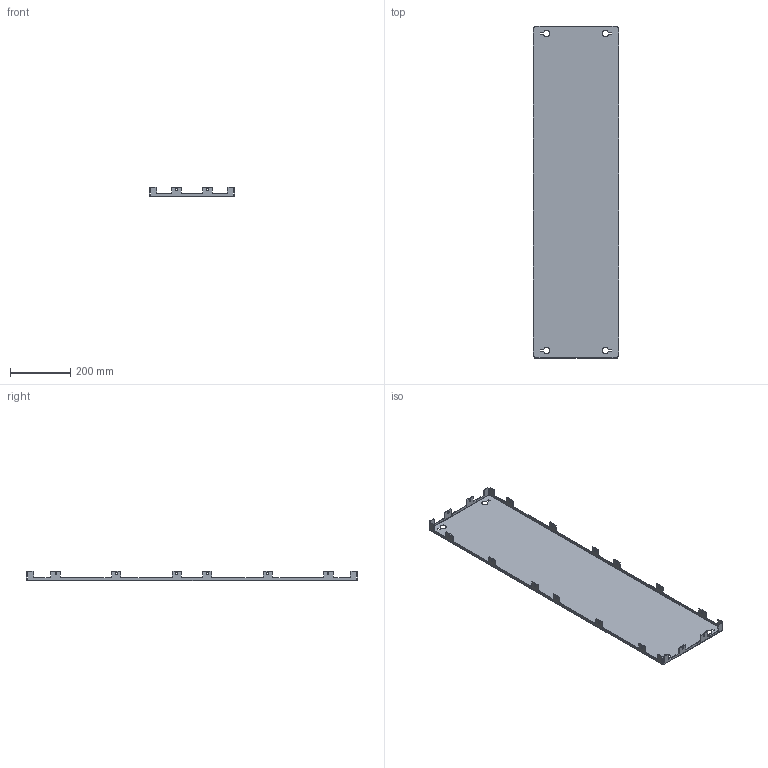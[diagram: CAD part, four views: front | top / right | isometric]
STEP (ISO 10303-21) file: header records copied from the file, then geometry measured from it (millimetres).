
FILE_DESCRIPTION (( 'STEP AP203' ), '1' );
FILE_NAME ('R5LPS1204.STEP', '2021-12-17T12:18:47', ( '' ), ( '' ), 'SwSTEP 2.0', 'SolidWorks 2020', '' );
FILE_SCHEMA (( 'CONFIG_CONTROL_DESIGN' ));
Length unit declared in the file: millimetre
Products named in the file (1): R5LPS1204
Bounding box: 284 x 1098 x 32.5 mm (x, y, z)
Volume: 687508.6 mm3; surface area: 696689.3 mm2
Topology: 1 solids, 1 shells, 328 faces, 946 edges, 620 vertices
Faces by surface type: plane 210, cylinder 118
Entity records: 10887 total; most frequent: CARTESIAN_POINT 1895, ORIENTED_EDGE 1892, DIRECTION 1840, EDGE_CURVE 946, VECTOR 710, LINE 710, VERTEX_POINT 620, AXIS2_PLACEMENT_3D 565
